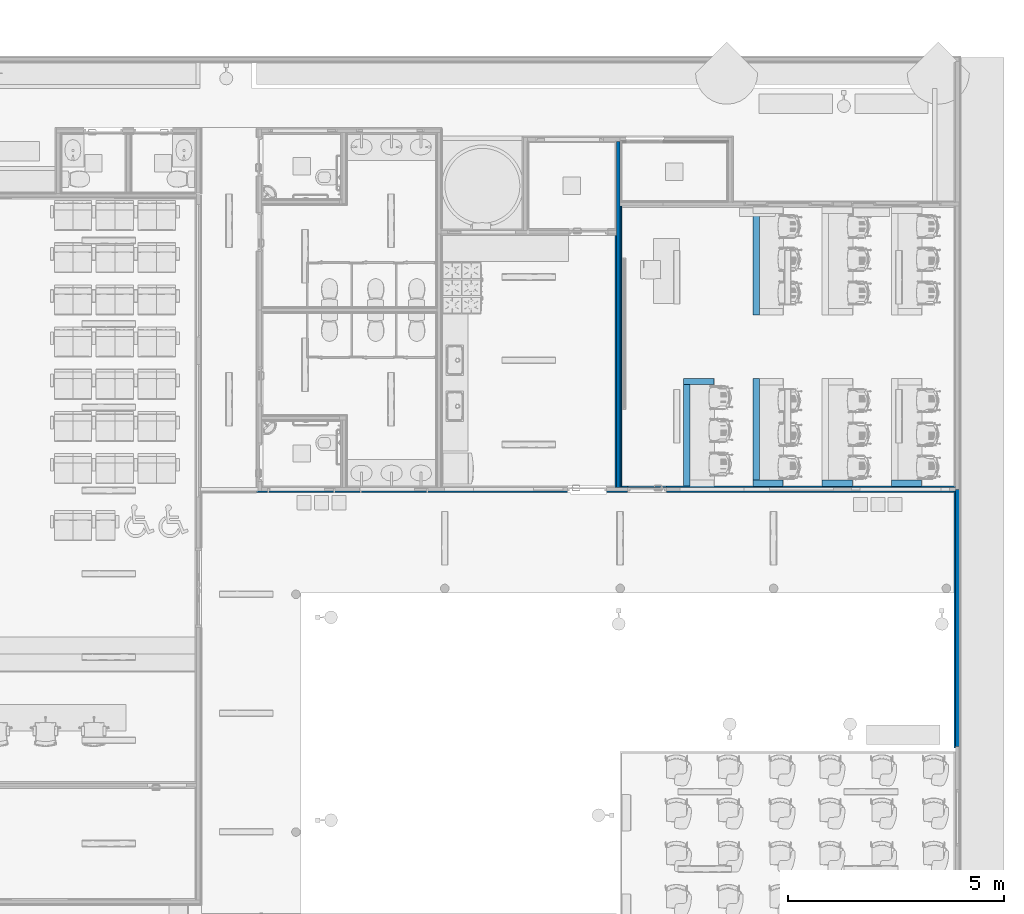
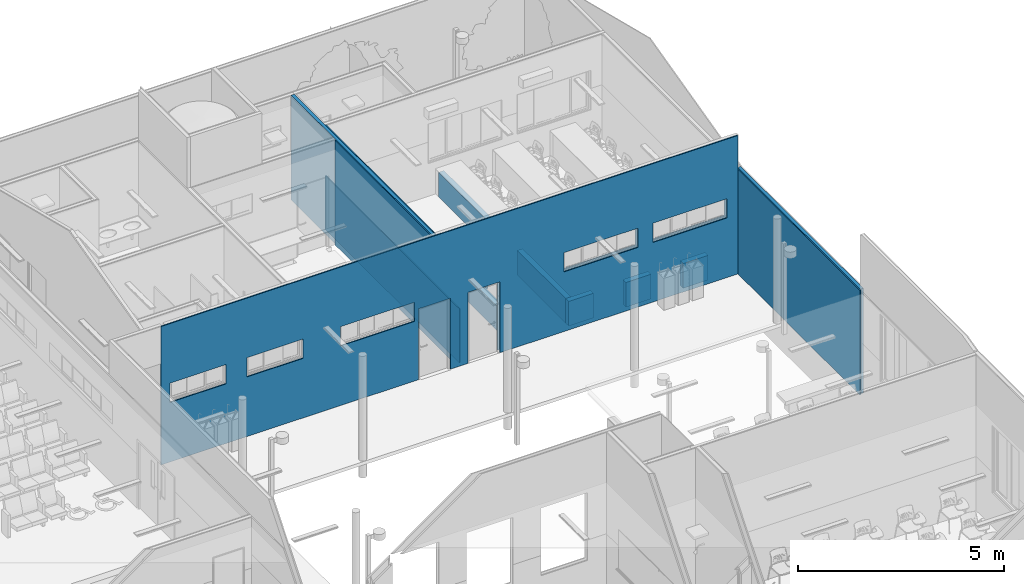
# One storey, part 39 of 155: 16 walls, 24 openings.
"""IFC2X3 building model written with IfcOpenShell, lengths in metres."""

from ifc_helpers import new_model, entity, si_unit, converted_unit, derived_unit, direction, frame, frame_2d, origin, place, context, subcontext, project, spatial, polyline, rectangle, extrude, clip, bounded_halfspace, material, layer, layer_set, layer_usage, type_object, element, save


model = new_model("IFC2X3")

# Units and contexts
model_context = context("Model", 3, precision=1e-05, world=origin(), true_north=direction((6.12303176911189e-17, 1.0)))
body_context = subcontext(model_context, "Body", "Model", "MODEL_VIEW")
ifc_project = project(units=[si_unit("LENGTHUNIT", "METRE"), si_unit("AREAUNIT", "SQUARE_METRE"), si_unit("VOLUMEUNIT", "CUBIC_METRE"), converted_unit("PLANEANGLEUNIT", "DEGREE", entity("IfcRatioMeasure", 0.0174532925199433), si_unit("PLANEANGLEUNIT", "RADIAN"), dimensions=[0, 0, 0, 0, 0, 0, 0]), si_unit("MASSUNIT", "GRAM", prefix="KILO"), derived_unit("MASSDENSITYUNIT", [(si_unit("MASSUNIT", "GRAM", prefix="KILO"), 1), (si_unit("LENGTHUNIT", "METRE"), -3)]), si_unit("TIMEUNIT", "SECOND"), si_unit("FREQUENCYUNIT", "HERTZ"), si_unit("THERMODYNAMICTEMPERATUREUNIT", "DEGREE_CELSIUS"), derived_unit("THERMALTRANSMITTANCEUNIT", [(si_unit("MASSUNIT", "GRAM", prefix="KILO"), 1), (si_unit("THERMODYNAMICTEMPERATUREUNIT", "KELVIN"), -1), (si_unit("TIMEUNIT", "SECOND"), -3)]), derived_unit("VOLUMETRICFLOWRATEUNIT", [(si_unit("LENGTHUNIT", "METRE"), 3), (si_unit("TIMEUNIT", "SECOND"), -1)]), si_unit("ELECTRICCURRENTUNIT", "AMPERE"), si_unit("ELECTRICVOLTAGEUNIT", "VOLT"), si_unit("POWERUNIT", "WATT"), si_unit("FORCEUNIT", "NEWTON", prefix="KILO"), si_unit("ILLUMINANCEUNIT", "LUX"), si_unit("LUMINOUSFLUXUNIT", "LUMEN"), si_unit("LUMINOUSINTENSITYUNIT", "CANDELA"), derived_unit("USERDEFINED", [(si_unit("MASSUNIT", "GRAM", prefix="KILO"), -1), (si_unit("LENGTHUNIT", "METRE"), -2), (si_unit("TIMEUNIT", "SECOND"), 3), (si_unit("LUMINOUSFLUXUNIT", "LUMEN"), 1)]), derived_unit("LINEARVELOCITYUNIT", [(si_unit("LENGTHUNIT", "METRE"), 1), (si_unit("TIMEUNIT", "SECOND"), -1)]), si_unit("PRESSUREUNIT", "PASCAL"), derived_unit("USERDEFINED", [(si_unit("LENGTHUNIT", "METRE"), -2), (si_unit("MASSUNIT", "GRAM", prefix="KILO"), 1), (si_unit("TIMEUNIT", "SECOND"), -2)])], contexts=[model_context])

# Site, building, storey
site_placement = place(None, frame((26.9889013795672, -17.5624287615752, 0.0)))
site = spatial("IfcSite", under=ifc_project, at=site_placement, Name="Default", CompositionType="ELEMENT")
building_placement = place(site_placement, origin())
building = spatial("IfcBuilding", under=site, at=building_placement, Name="C. C. L. Monsenhor Antônio Sampaio", CompositionType="ELEMENT")
storey_placement = place(building_placement, frame((0.0, 0.0, 1.19999999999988)))
storey = spatial("IfcBuildingStorey", under=building, at=storey_placement, Name="Nível 1.2", CompositionType="ELEMENT", Elevation=1.19999999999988)

# Wall
ifc_material_1 = material(Name="ALVENARIA")
ifc_layer_1 = layer(ifc_material_1, 0.09)
ifc_layer_set_1 = layer_set([ifc_layer_1], Name="Parede básica:ENucleo parede 15cm")
ifc_layer_usage_1 = layer_usage(ifc_layer_set_1, "AXIS2", "NEGATIVE", 0.045)
wall_type_1 = type_object("IfcWallType", Name="Parede básica:ENucleo parede 15cm", PredefinedType="STANDARD", material=ifc_layer_set_1)
wall_1_placement = place(storey_placement, frame((3.80461597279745, -8.77306634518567, 0.0), z_axis=(0.0, 0.0, 1.0), x_axis=(0.0, -1.0, 0.0)))
element("IfcWallStandardCase", 1, at=wall_1_placement, inside=storey, type_object=wall_type_1, material=ifc_layer_usage_1, Name="Parede básica:ENucleo parede 15cm", ObjectType="Parede básica:ENucleo parede 15cm", context=body_context, shape_type="Clipping", body=[
    clip(clip(clip(clip(extrude(rectangle(XDim=8.0100000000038, YDim=0.0900000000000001, at=frame_2d((4.0050000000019, -6.93889390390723e-18), x_axis=(-1.0, 0.0))), origin(), (0.0, 0.0, 1.0), 3.10000000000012), bounded_halfspace(frame((1.4100000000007, 0.0448317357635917, 3.10000000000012), z_axis=(0.0, -1.0, 0.0), x_axis=(1.0, 0.0, 0.0)), True, frame((1.4100000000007, 0.0448317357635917, 3.10000000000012), z_axis=(0.0, -1.0, 0.0), x_axis=(1.0, 0.0, 0.0)), polyline([(0.0, 0.0), (-1.4100000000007, 0.0), (-1.4100000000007, -3.10000000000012), (0.0, -3.10000000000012), (0.0, 0.0)]))), bounded_halfspace(frame((1.4100000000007, 0.0448317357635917, 0.0), z_axis=(1.0, 0.0, 0.0), x_axis=(0.0, 1.0, 0.0)), True, frame((1.4100000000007, 0.0448317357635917, 0.0), z_axis=(1.0, 0.0, 0.0), x_axis=(0.0, 1.0, 0.0)), polyline([(0.0, 0.0), (0.000168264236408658, 0.0), (0.000168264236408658, 3.10000000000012), (0.0, 3.10000000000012), (0.0, 0.0)]))), bounded_halfspace(frame((1.5000000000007, 0.0448317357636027, 0.0), z_axis=(0.0, -1.0, 0.0), x_axis=(1.0, 0.0, 0.0)), True, frame((1.5000000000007, 0.0448317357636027, 0.0), z_axis=(0.0, -1.0, 0.0), x_axis=(1.0, 0.0, 0.0)), polyline([(0.0, 0.0), (6.5100000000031, 0.0), (6.5100000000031, 3.10000000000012), (0.0, 3.10000000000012), (0.0, 0.0)]))), bounded_halfspace(frame((1.5000000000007, 0.0448317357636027, 3.10000000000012), z_axis=(-1.0, 0.0, 0.0), x_axis=(0.0, -1.0, 0.0)), True, frame((1.5000000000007, 0.0448317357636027, 3.10000000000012), z_axis=(-1.0, 0.0, 0.0), x_axis=(0.0, -1.0, 0.0)), polyline([(0.0, 0.0), (-0.000168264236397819, 0.0), (-0.000168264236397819, -3.10000000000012), (0.0, -3.10000000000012), (0.0, 0.0)]))),
])

# Wall, openings
ifc_layer_usage_2 = layer_usage(ifc_layer_set_1, "AXIS2", "NEGATIVE", 0.045)
wall_2_placement = place(storey_placement, frame((11.6544477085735, -22.783066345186, 0.0), z_axis=(0.0, 0.0, 1.0), x_axis=(0.0, 1.0, 0.0)))
wall_2 = element("IfcWallStandardCase", 2, at=wall_2_placement, inside=storey, type_object=wall_type_1, material=ifc_layer_usage_2, Name="Parede básica:ENucleo parede 15cm", ObjectType="Parede básica:ENucleo parede 15cm", context=body_context, shape_type="SweptSolid", body=[
    extrude(rectangle(XDim=5.95499999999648, YDim=0.0900000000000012, at=frame_2d((2.97749999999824, 5.27355936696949e-16), x_axis=(-1.0, 0.0))), origin(), (0.0, 0.0, 1.0), 3.10000000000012),
])
opening_1_placement = place(wall_2_placement, origin())
element("IfcOpeningElement", 3, at=opening_1_placement, cuts=wall_2, Name="Parede básica:ENucleo parede 15cm", ObjectType="Opening", context=body_context, shape_type="SweptSolid", body=[
    extrude(rectangle(XDim=2.0, YDim=1.30000000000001, at=frame_2d((0.0, -3.88578058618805e-16), x_axis=(0.0, 1.0))), frame((-4.0, -1.47900000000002, 2.0), z_axis=(0.0, 1.0, 0.0), x_axis=(-1.0, 0.0, 0.0)), (0.0, 0.0, 1.0), 3.048),
])
opening_2_placement = place(wall_2_placement, origin())
element("IfcOpeningElement", 4, at=opening_2_placement, cuts=wall_2, Name="Parede básica:ENucleo parede 15cm", ObjectType="Opening", context=body_context, shape_type="SweptSolid", body=[
    extrude(rectangle(XDim=2.0, YDim=1.30000000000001, at=frame_2d((0.0, -3.88578058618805e-16), x_axis=(0.0, 1.0))), frame((-1.64999999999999, -1.47900000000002, 2.0), z_axis=(0.0, 1.0, 0.0), x_axis=(-1.0, 0.0, 0.0)), (0.0, 0.0, 1.0), 3.048),
])

# Walls
ifc_material_2 = material(Name=".CERÂMICA 10x10 BRANCA")
ifc_layer_2 = layer(ifc_material_2, 0.0035)
ifc_material_3 = material(Name="Argamassa Colante")
ifc_layer_3 = layer(ifc_material_3, 0.02)
ifc_material_4 = material(Name="4")
ifc_layer_4 = layer(ifc_material_4, 0.0015)
ifc_material_5 = material(Name="3")
ifc_layer_5 = layer(ifc_material_5, 0.005)
ifc_layer_set_2 = layer_set([ifc_layer_2, ifc_layer_3, ifc_layer_4, ifc_layer_5], Name="Parede básica:ECeramica branca 10x10cm")
ifc_layer_usage_3 = layer_usage(ifc_layer_set_2, "AXIS2", "POSITIVE", -0.015)
wall_type_2 = type_object("IfcWallType", Name="Parede básica:ECeramica branca 10x10cm", PredefinedType="STANDARD", material=ifc_layer_set_2)
wall_3_placement = place(storey_placement, frame((3.74461597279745, -10.9530663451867, 0.0), z_axis=(0.0, 0.0, 1.0), x_axis=(0.0, -1.0, 0.0)))
element("IfcWallStandardCase", 5, at=wall_3_placement, inside=storey, type_object=wall_type_2, material=ifc_layer_usage_3, Name="Parede básica:ECeramica branca 10x10cm", ObjectType="Parede básica:ECeramica branca 10x10cm", context=body_context, shape_type="SweptSolid", body=[
    extrude(rectangle(XDim=5.83000000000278, YDim=0.0299999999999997, at=frame_2d((2.91500000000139, 0.0), x_axis=(-1.0, 0.0))), origin(), (0.0, 0.0, 1.0), 3.10000000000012),
])
ifc_layer_usage_4 = layer_usage(ifc_layer_set_2, "AXIS2", "NEGATIVE", 0.015)
wall_4_placement = place(storey_placement, frame((3.86461597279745, -10.2730663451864, 0.0), z_axis=(0.0, 0.0, 1.0), x_axis=(0.0, -1.0, 0.0)))
element("IfcWallStandardCase", 6, at=wall_4_placement, inside=storey, type_object=wall_type_2, material=ifc_layer_usage_4, Name="Parede básica:ECeramica branca 10x10cm", ObjectType="Parede básica:ECeramica branca 10x10cm", context=body_context, shape_type="SweptSolid", body=[
    extrude(rectangle(XDim=6.5100000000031, YDim=0.0299999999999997, at=frame_2d((3.25500000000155, 0.0), x_axis=(-1.0, 0.0))), origin(), (0.0, 0.0, 1.0), 1.6),
])

# Wall, openings
ifc_layer_usage_5 = layer_usage(ifc_layer_set_2, "AXIS2", "NEGATIVE", 0.015)
wall_5_placement = place(storey_placement, frame((3.87961597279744, -16.7680663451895, 0.0)))
wall_5 = element("IfcWallStandardCase", 7, at=wall_5_placement, inside=storey, type_object=wall_type_2, material=ifc_layer_usage_5, Name="Parede básica:ECeramica branca 10x10cm", ObjectType="Parede básica:ECeramica branca 10x10cm", context=body_context, shape_type="SweptSolid", body=[
    extrude(rectangle(XDim=7.72983173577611, YDim=0.0300000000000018, at=frame_2d((3.86491586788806, 0.0), x_axis=(-1.0, 0.0))), origin(), (0.0, 0.0, 1.0), 1.6),
])
opening_3_placement = place(wall_5_placement, origin())
element("IfcOpeningElement", 8, at=opening_3_placement, cuts=wall_5, Name="Parede básica:ECeramica branca 10x10cm", ObjectType="Opening", context=body_context, shape_type="SweptSolid", body=[
    extrude(rectangle(XDim=2.09999999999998, YDim=0.9, at=frame_2d((-3.33066907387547e-16, -5.27355936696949e-16), x_axis=(1.0, 0.0))), frame((0.591249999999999, -1.539, 1.04999999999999), z_axis=(0.0, 1.0, 0.0), x_axis=(0.0, 0.0, 1.0)), (0.0, 0.0, 1.0), 3.048),
])
opening_4_placement = place(wall_5_placement, origin())
element("IfcOpeningElement", 9, at=opening_4_placement, cuts=wall_5, Name="Parede básica:ECeramica branca 10x10cm", ObjectType="Opening", context=body_context, shape_type="SweptSolid", body=[
    extrude(rectangle(XDim=0.570000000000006, YDim=2.06999999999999, at=frame_2d((0.0, 2.77555756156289e-16), x_axis=(0.0, 1.0))), frame((6.36, -1.539, 2.05000000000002), z_axis=(0.0, 1.0, 0.0), x_axis=(-1.0, 0.0, 0.0)), (0.0, 0.0, 1.0), 3.048),
])
opening_5_placement = place(wall_5_placement, origin())
element("IfcOpeningElement", 10, at=opening_5_placement, cuts=wall_5, Name="Parede básica:ECeramica branca 10x10cm", ObjectType="Opening", context=body_context, shape_type="SweptSolid", body=[
    extrude(rectangle(XDim=0.570000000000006, YDim=2.07, at=frame_2d((5.55111512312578e-16, 2.77555756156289e-16), x_axis=(0.0, 1.0))), frame((3.87, -1.539, 2.05000000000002), z_axis=(0.0, 1.0, 0.0), x_axis=(-1.0, 0.0, 0.0)), (0.0, 0.0, 1.0), 3.048),
])
opening_6_placement = place(wall_5_placement, origin())
element("IfcOpeningElement", 11, at=opening_6_placement, cuts=wall_5, Name="Parede básica:ECeramica branca 10x10cm", ObjectType="Opening", context=body_context, shape_type="SweptSolid", body=[
    extrude(rectangle(XDim=2.09999999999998, YDim=0.9, at=frame_2d((0.0, 0.0), x_axis=(0.0, 1.0))), frame((-0.798749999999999, -1.539, 1.04999999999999), z_axis=(0.0, 1.0, 0.0), x_axis=(-1.0, 0.0, 0.0)), (0.0, 0.0, 1.0), 3.048),
])
opening_7_placement = place(wall_5_placement, origin())
element("IfcOpeningElement", 12, at=opening_7_placement, cuts=wall_5, Name="Parede básica:ECeramica branca 10x10cm", ObjectType="Opening", context=body_context, shape_type="SweptSolid", body=[
    extrude(rectangle(XDim=0.570000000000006, YDim=2.07, at=frame_2d((0.0, 2.77555756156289e-16), x_axis=(0.0, 1.0))), frame((-2.38875, -1.539, 2.05000000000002), z_axis=(0.0, 1.0, 0.0), x_axis=(-1.0, 0.0, 0.0)), (0.0, 0.0, 1.0), 3.048),
])
opening_8_placement = place(wall_5_placement, origin())
element("IfcOpeningElement", 13, at=opening_8_placement, cuts=wall_5, Name="Parede básica:ECeramica branca 10x10cm", ObjectType="Opening", context=body_context, shape_type="SweptSolid", body=[
    extrude(rectangle(XDim=0.570000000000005, YDim=1.56999999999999, at=frame_2d((5.27355936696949e-16, -2.22044604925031e-16), x_axis=(1.0, 0.0))), frame((-7.41516557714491, -1.539, 2.05000000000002), z_axis=(0.0, 1.0, 0.0), x_axis=(0.0, 0.0, 1.0)), (0.0, 0.0, 1.0), 3.048),
])

# Wall
ifc_material_6 = material(Name="Acabamento Branco")
ifc_layer_6 = layer(ifc_material_6, 0.0035)
ifc_material_7 = material(Name="Massa corrida")
ifc_layer_7 = layer(ifc_material_7, 0.02)
ifc_layer_8 = layer(ifc_material_4, 0.0015)
ifc_layer_9 = layer(ifc_material_5, 0.005)
ifc_layer_set_3 = layer_set([ifc_layer_6, ifc_layer_7, ifc_layer_8, ifc_layer_9], Name="Parede básica:EPintura Branca")
ifc_layer_usage_6 = layer_usage(ifc_layer_set_3, "AXIS2", "NEGATIVE", 0.015)
wall_type_3 = type_object("IfcWallType", Name="Parede básica:EPintura Branca", PredefinedType="STANDARD", material=ifc_layer_set_3)
wall_6_placement = place(storey_placement, frame((3.86461597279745, -10.2730663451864, 1.6), z_axis=(0.0, 0.0, 1.0), x_axis=(0.0, -1.0, 0.0)))
element("IfcWallStandardCase", 14, at=wall_6_placement, inside=storey, type_object=wall_type_3, material=ifc_layer_usage_6, Name="Parede básica:EPintura Branca", ObjectType="Parede básica:EPintura Branca", context=body_context, shape_type="SweptSolid", body=[
    extrude(rectangle(XDim=6.5100000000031, YDim=0.0299999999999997, at=frame_2d((3.25500000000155, 0.0), x_axis=(-1.0, 0.0))), origin(), (0.0, 0.0, 1.0), 1.50000000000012),
])

# Wall, openings
ifc_layer_usage_7 = layer_usage(ifc_layer_set_3, "AXIS2", "NEGATIVE", 0.015)
wall_7_placement = place(storey_placement, frame((3.87961597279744, -16.7680663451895, 1.6)))
wall_7 = element("IfcWallStandardCase", 15, at=wall_7_placement, inside=storey, type_object=wall_type_3, material=ifc_layer_usage_7, Name="Parede básica:EPintura Branca", ObjectType="Parede básica:EPintura Branca", context=body_context, shape_type="SweptSolid", body=[
    extrude(rectangle(XDim=7.72983173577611, YDim=0.0300000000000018, at=frame_2d((3.86491586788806, 0.0), x_axis=(-1.0, 0.0))), origin(), (0.0, 0.0, 1.0), 1.50000000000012),
])
opening_9_placement = place(wall_7_placement, origin())
element("IfcOpeningElement", 16, at=opening_9_placement, cuts=wall_7, Name="Parede básica:EPintura Branca", ObjectType="Opening", context=body_context, shape_type="SweptSolid", body=[
    extrude(rectangle(XDim=2.09999999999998, YDim=0.9, at=frame_2d((-3.33066907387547e-16, -5.27355936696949e-16), x_axis=(1.0, 0.0))), frame((0.591249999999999, -1.539, -0.550000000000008), z_axis=(0.0, 1.0, 0.0), x_axis=(0.0, 0.0, 1.0)), (0.0, 0.0, 1.0), 3.048),
])
opening_10_placement = place(wall_7_placement, origin())
element("IfcOpeningElement", 17, at=opening_10_placement, cuts=wall_7, Name="Parede básica:EPintura Branca", ObjectType="Opening", context=body_context, shape_type="SweptSolid", body=[
    extrude(rectangle(XDim=0.570000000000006, YDim=2.06999999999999, at=frame_2d((0.0, 2.77555756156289e-16), x_axis=(0.0, 1.0))), frame((6.36, -1.539, 0.450000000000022), z_axis=(0.0, 1.0, 0.0), x_axis=(-1.0, 0.0, 0.0)), (0.0, 0.0, 1.0), 3.048),
])
opening_11_placement = place(wall_7_placement, origin())
element("IfcOpeningElement", 18, at=opening_11_placement, cuts=wall_7, Name="Parede básica:EPintura Branca", ObjectType="Opening", context=body_context, shape_type="SweptSolid", body=[
    extrude(rectangle(XDim=2.09999999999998, YDim=0.9, at=frame_2d((0.0, 0.0), x_axis=(0.0, 1.0))), frame((-0.798749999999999, -1.539, -0.550000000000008), z_axis=(0.0, 1.0, 0.0), x_axis=(-1.0, 0.0, 0.0)), (0.0, 0.0, 1.0), 3.048),
])
opening_12_placement = place(wall_7_placement, origin())
element("IfcOpeningElement", 19, at=opening_12_placement, cuts=wall_7, Name="Parede básica:EPintura Branca", ObjectType="Opening", context=body_context, shape_type="SweptSolid", body=[
    extrude(rectangle(XDim=0.570000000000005, YDim=1.56999999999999, at=frame_2d((5.27355936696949e-16, -2.22044604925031e-16), x_axis=(1.0, 0.0))), frame((-7.41516557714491, -1.539, 0.450000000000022), z_axis=(0.0, 1.0, 0.0), x_axis=(0.0, 0.0, 1.0)), (0.0, 0.0, 1.0), 3.048),
])
opening_13_placement = place(wall_7_placement, origin())
element("IfcOpeningElement", 20, at=opening_13_placement, cuts=wall_7, Name="Parede básica:EPintura Branca", ObjectType="Opening", context=body_context, shape_type="SweptSolid", body=[
    extrude(rectangle(XDim=0.570000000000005, YDim=1.56999999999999, at=frame_2d((5.27355936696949e-16, 0.0), x_axis=(1.0, 0.0))), frame((-5.26516289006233, -1.539, 0.450000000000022), z_axis=(0.0, 1.0, 0.0), x_axis=(0.0, 0.0, 1.0)), (0.0, 0.0, 1.0), 3.048),
])
opening_14_placement = place(wall_7_placement, origin())
element("IfcOpeningElement", 21, at=opening_14_placement, cuts=wall_7, Name="Parede básica:EPintura Branca", ObjectType="Opening", context=body_context, shape_type="SweptSolid", body=[
    extrude(rectangle(XDim=0.570000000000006, YDim=2.07, at=frame_2d((0.0, 2.77555756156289e-16), x_axis=(0.0, 1.0))), frame((-2.38875, -1.539, 0.450000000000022), z_axis=(0.0, 1.0, 0.0), x_axis=(-1.0, 0.0, 0.0)), (0.0, 0.0, 1.0), 3.048),
])
opening_15_placement = place(wall_7_placement, origin())
element("IfcOpeningElement", 22, at=opening_15_placement, cuts=wall_7, Name="Parede básica:EPintura Branca", ObjectType="Opening", context=body_context, shape_type="SweptSolid", body=[
    extrude(rectangle(XDim=0.570000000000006, YDim=2.07, at=frame_2d((5.55111512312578e-16, 2.77555756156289e-16), x_axis=(0.0, 1.0))), frame((3.87, -1.539, 0.450000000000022), z_axis=(0.0, 1.0, 0.0), x_axis=(-1.0, 0.0, 0.0)), (0.0, 0.0, 1.0), 3.048),
])

ifc_material_8 = material(Name="Acabamento amarelo")
ifc_layer_10 = layer(ifc_material_8, 0.0035)
ifc_layer_11 = layer(ifc_material_7, 0.02)
ifc_layer_12 = layer(ifc_material_4, 0.0015)
ifc_layer_13 = layer(ifc_material_5, 0.005)
ifc_layer_set_4 = layer_set([ifc_layer_10, ifc_layer_11, ifc_layer_12, ifc_layer_13], Name="Parede básica:EPintura amarela")
ifc_layer_usage_8 = layer_usage(ifc_layer_set_4, "AXIS2", "NEGATIVE", 0.015)
wall_type_4 = type_object("IfcWallType", Name="Parede básica:EPintura amarela", PredefinedType="STANDARD", material=ifc_layer_set_4)
wall_8_placement = place(storey_placement, frame((11.5794477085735, -16.8880663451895, 0.0), z_axis=(0.0, 0.0, 1.0), x_axis=(-1.0, 0.0, 0.0)))
wall_8 = element("IfcWallStandardCase", 23, at=wall_8_placement, inside=storey, type_object=wall_type_4, material=ifc_layer_usage_8, Name="Parede básica:EPintura amarela", ObjectType="Parede básica:EPintura amarela", context=body_context, shape_type="SweptSolid", body=[
    extrude(rectangle(XDim=16.1499999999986, YDim=0.0300000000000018, at=frame_2d((8.07499999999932, 4.85722573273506e-17), x_axis=(-1.0, 0.0))), origin(), (0.0, 0.0, 1.0), 4.10000000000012),
])
opening_16_placement = place(wall_8_placement, origin())
element("IfcOpeningElement", 24, at=opening_16_placement, cuts=wall_8, Name="Parede básica:EPintura amarela", ObjectType="Opening", context=body_context, shape_type="SweptSolid", body=[
    extrude(rectangle(XDim=2.09999999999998, YDim=0.9, at=frame_2d((-3.33066907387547e-16, 0.0), x_axis=(1.0, 0.0))), frame((8.4985817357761, -1.629, 1.04999999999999), z_axis=(0.0, 1.0, 0.0), x_axis=(0.0, 0.0, 1.0)), (0.0, 0.0, 1.0), 3.048),
])
opening_17_placement = place(wall_8_placement, origin())
element("IfcOpeningElement", 25, at=opening_17_placement, cuts=wall_8, Name="Parede básica:EPintura amarela", ObjectType="Opening", context=body_context, shape_type="SweptSolid", body=[
    extrude(rectangle(XDim=2.09999999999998, YDim=0.9, at=frame_2d((-5.27355936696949e-16, 0.0), x_axis=(0.0, 1.0))), frame((7.1085817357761, -1.629, 1.04999999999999), z_axis=(0.0, 1.0, 0.0), x_axis=(-1.0, 0.0, 0.0)), (0.0, 0.0, 1.0), 3.048),
])
opening_18_placement = place(wall_8_placement, origin())
element("IfcOpeningElement", 26, at=opening_18_placement, cuts=wall_8, Name="Parede básica:EPintura amarela", ObjectType="Opening", context=body_context, shape_type="SweptSolid", body=[
    extrude(rectangle(XDim=0.570000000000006, YDim=1.56999999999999, at=frame_2d((0.0, 2.77555756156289e-16), x_axis=(0.0, 1.0))), frame((15.114997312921, -1.629, 2.05000000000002), z_axis=(0.0, 1.0, 0.0), x_axis=(-1.0, 0.0, 0.0)), (0.0, 0.0, 1.0), 3.048),
])
opening_19_placement = place(wall_8_placement, origin())
element("IfcOpeningElement", 27, at=opening_19_placement, cuts=wall_8, Name="Parede básica:EPintura amarela", ObjectType="Opening", context=body_context, shape_type="SweptSolid", body=[
    extrude(rectangle(XDim=0.570000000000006, YDim=1.56999999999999, at=frame_2d((-1.11022302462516e-16, 2.77555756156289e-16), x_axis=(0.0, 1.0))), frame((12.9649946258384, -1.62899999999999, 2.05000000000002), z_axis=(0.0, 1.0, 0.0), x_axis=(-1.0, 0.0, 0.0)), (0.0, 0.0, 1.0), 3.048),
])
opening_20_placement = place(wall_8_placement, origin())
element("IfcOpeningElement", 28, at=opening_20_placement, cuts=wall_8, Name="Parede básica:EPintura amarela", ObjectType="Opening", context=body_context, shape_type="SweptSolid", body=[
    extrude(rectangle(XDim=0.570000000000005, YDim=2.07, at=frame_2d((5.27355936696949e-16, -1.11022302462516e-16), x_axis=(1.0, 0.0))), frame((10.0885817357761, -1.629, 2.05000000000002), z_axis=(0.0, 1.0, 0.0), x_axis=(0.0, 0.0, 1.0)), (0.0, 0.0, 1.0), 3.048),
])
opening_21_placement = place(wall_8_placement, origin())
element("IfcOpeningElement", 29, at=opening_21_placement, cuts=wall_8, Name="Parede básica:EPintura amarela", ObjectType="Opening", context=body_context, shape_type="SweptSolid", body=[
    extrude(rectangle(XDim=0.570000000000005, YDim=2.07, at=frame_2d((5.27355936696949e-16, -5.55111512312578e-16), x_axis=(1.0, 0.0))), frame((1.3398317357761, -1.62899999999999, 2.05000000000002), z_axis=(0.0, 1.0, 0.0), x_axis=(0.0, 0.0, 1.0)), (0.0, 0.0, 1.0), 3.048),
])
opening_22_placement = place(wall_8_placement, origin())
element("IfcOpeningElement", 30, at=opening_22_placement, cuts=wall_8, Name="Parede básica:EPintura amarela", ObjectType="Opening", context=body_context, shape_type="SweptSolid", body=[
    extrude(rectangle(XDim=0.570000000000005, YDim=2.07, at=frame_2d((5.27355936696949e-16, -5.55111512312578e-16), x_axis=(1.0, 0.0))), frame((3.82983173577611, -1.629, 2.05000000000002), z_axis=(0.0, 1.0, 0.0), x_axis=(0.0, 0.0, 1.0)), (0.0, 0.0, 1.0), 3.048),
])

ifc_layer_usage_9 = layer_usage(ifc_layer_set_4, "AXIS2", "NEGATIVE", 0.015)
wall_9_placement = place(storey_placement, frame((11.5944477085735, -22.813066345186, 0.0), z_axis=(0.0, 0.0, 1.0), x_axis=(0.0, 1.0, 0.0)))
wall_9 = element("IfcWallStandardCase", 31, at=wall_9_placement, inside=storey, type_object=wall_type_4, material=ifc_layer_usage_9, Name="Parede básica:EPintura amarela", ObjectType="Parede básica:EPintura amarela", context=body_context, shape_type="SweptSolid", body=[
    extrude(rectangle(XDim=5.93999999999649, YDim=0.0300000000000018, at=frame_2d((2.96999999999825, -3.50414142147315e-16), x_axis=(-1.0, 0.0))), origin(), (0.0, 0.0, 1.0), 3.10000000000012),
])
opening_23_placement = place(wall_9_placement, origin())
element("IfcOpeningElement", 32, at=opening_23_placement, cuts=wall_9, Name="Parede básica:EPintura amarela", ObjectType="Opening", context=body_context, shape_type="SweptSolid", body=[
    extrude(rectangle(XDim=2.0, YDim=1.30000000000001, at=frame_2d((0.0, -3.88578058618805e-16), x_axis=(0.0, 1.0))), frame((-3.96999999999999, -1.53900000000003, 2.0), z_axis=(0.0, 1.0, 0.0), x_axis=(-1.0, 0.0, 0.0)), (0.0, 0.0, 1.0), 3.048),
])
opening_24_placement = place(wall_9_placement, origin())
element("IfcOpeningElement", 33, at=opening_24_placement, cuts=wall_9, Name="Parede básica:EPintura amarela", ObjectType="Opening", context=body_context, shape_type="SweptSolid", body=[
    extrude(rectangle(XDim=2.0, YDim=1.30000000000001, at=frame_2d((0.0, -3.88578058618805e-16), x_axis=(0.0, 1.0))), frame((-1.62, -1.53900000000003, 2.0), z_axis=(0.0, 1.0, 0.0), x_axis=(-1.0, 0.0, 0.0)), (0.0, 0.0, 1.0), 3.048),
])

# Walls
ifc_layer_14 = layer(ifc_material_2, 0.005)
ifc_material_9 = material(Name="Argamassa Cola")
ifc_layer_15 = layer(ifc_material_9, 0.0175)
ifc_material_10 = material(Name="Tijolo, comum, marrom")
ifc_layer_16 = layer(ifc_material_10, 0.105)
ifc_layer_17 = layer(ifc_material_9, 0.0175)
ifc_layer_18 = layer(ifc_material_2, 0.005)
ifc_layer_set_5 = layer_set([ifc_layer_14, ifc_layer_15, ifc_layer_16, ifc_layer_17, ifc_layer_18], Name="Parede básica:INTERNA .15 - REVESTIMENTO BRANCO")
ifc_layer_usage_10 = layer_usage(ifc_layer_set_5, "AXIS2", "POSITIVE", -0.075)
wall_type_5 = type_object("IfcWallType", Name="Parede básica:INTERNA .15 - REVESTIMENTO BRANCO", PredefinedType="STANDARD", material=ifc_layer_set_5)
wall_10_placement = place(storey_placement, frame((6.99694770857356, -10.4480663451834, 0.0), z_axis=(0.0, 0.0, 1.0), x_axis=(0.0, -1.0, 0.0)))
element("IfcWallStandardCase", 34, at=wall_10_placement, inside=storey, type_object=wall_type_5, material=ifc_layer_usage_10, Name="Parede básica:INTERNA .15 - REVESTIMENTO BRANCO", ObjectType="Parede básica:INTERNA .15 - REVESTIMENTO BRANCO", context=body_context, shape_type="SweptSolid", body=[
    extrude(rectangle(XDim=2.35, YDim=0.150000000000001, at=frame_2d((1.175, 0.0), x_axis=(-1.0, 0.0))), origin(), (0.0, 0.0, 1.0), 0.73),
])
ifc_layer_usage_11 = layer_usage(ifc_layer_set_5, "AXIS2", "POSITIVE", -0.075)
wall_11_placement = place(storey_placement, frame((6.01944770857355, -14.3330663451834, 0.0), z_axis=(0.0, 0.0, 1.0), x_axis=(-1.0, 0.0, 0.0)))
element("IfcWallStandardCase", 35, at=wall_11_placement, inside=storey, type_object=wall_type_5, material=ifc_layer_usage_11, Name="Parede básica:INTERNA .15 - REVESTIMENTO BRANCO", ObjectType="Parede básica:INTERNA .15 - REVESTIMENTO BRANCO", context=body_context, shape_type="SweptSolid", body=[
    extrude(rectangle(XDim=0.699999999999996, YDim=0.150000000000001, at=frame_2d((0.349999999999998, 1.38777878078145e-16), x_axis=(-1.0, 0.0))), origin(), (0.0, 0.0, 1.0), 0.73),
])
ifc_layer_usage_12 = layer_usage(ifc_layer_set_5, "AXIS2", "POSITIVE", -0.075)
wall_12_placement = place(storey_placement, frame((5.39444770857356, -14.4080663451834, 0.0), z_axis=(0.0, 0.0, 1.0), x_axis=(0.0, -1.0, 0.0)))
element("IfcWallStandardCase", 36, at=wall_12_placement, inside=storey, type_object=wall_type_5, material=ifc_layer_usage_12, Name="Parede básica:INTERNA .15 - REVESTIMENTO BRANCO", ObjectType="Parede básica:INTERNA .15 - REVESTIMENTO BRANCO", context=body_context, shape_type="SweptSolid", body=[
    extrude(rectangle(XDim=2.35000000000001, YDim=0.150000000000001, at=frame_2d((1.175, 0.0), x_axis=(-1.0, 0.0))), origin(), (0.0, 0.0, 1.0), 0.73),
])
ifc_layer_usage_13 = layer_usage(ifc_layer_set_5, "AXIS2", "NEGATIVE", 0.075)
wall_13_placement = place(storey_placement, frame((10.8269477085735, -16.6880663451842, 0.0), z_axis=(0.0, 0.0, 1.0), x_axis=(-1.0, 0.0, 0.0)))
element("IfcWallStandardCase", 37, at=wall_13_placement, inside=storey, type_object=wall_type_5, material=ifc_layer_usage_13, Name="Parede básica:INTERNA .15 - REVESTIMENTO BRANCO", ObjectType="Parede básica:INTERNA .15 - REVESTIMENTO BRANCO", context=body_context, shape_type="SweptSolid", body=[
    extrude(rectangle(XDim=0.699999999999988, YDim=0.150000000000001, at=frame_2d((0.349999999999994, -5.55111512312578e-17), x_axis=(-1.0, 0.0))), origin(), (0.0, 0.0, 1.0), 0.73),
])
ifc_layer_usage_14 = layer_usage(ifc_layer_set_5, "AXIS2", "NEGATIVE", 0.075)
wall_14_placement = place(storey_placement, frame((9.22444770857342, -16.6880663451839, 0.0), z_axis=(0.0, 0.0, 1.0), x_axis=(-1.0, 0.0, 0.0)))
element("IfcWallStandardCase", 38, at=wall_14_placement, inside=storey, type_object=wall_type_5, material=ifc_layer_usage_14, Name="Parede básica:INTERNA .15 - REVESTIMENTO BRANCO", ObjectType="Parede básica:INTERNA .15 - REVESTIMENTO BRANCO", context=body_context, shape_type="SweptSolid", body=[
    extrude(rectangle(XDim=0.699999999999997, YDim=0.150000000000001, at=frame_2d((0.349999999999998, -1.73472347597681e-16), x_axis=(-1.0, 0.0))), origin(), (0.0, 0.0, 1.0), 0.73),
])
ifc_layer_usage_15 = layer_usage(ifc_layer_set_5, "AXIS2", "NEGATIVE", 0.075)
wall_15_placement = place(storey_placement, frame((7.62194770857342, -16.6880663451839, 0.0), z_axis=(0.0, 0.0, 1.0), x_axis=(-1.0, 0.0, 0.0)))
element("IfcWallStandardCase", 39, at=wall_15_placement, inside=storey, type_object=wall_type_5, material=ifc_layer_usage_15, Name="Parede básica:INTERNA .15 - REVESTIMENTO BRANCO", ObjectType="Parede básica:INTERNA .15 - REVESTIMENTO BRANCO", context=body_context, shape_type="SweptSolid", body=[
    extrude(rectangle(XDim=0.699999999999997, YDim=0.150000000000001, at=frame_2d((0.349999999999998, -1.73472347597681e-16), x_axis=(-1.0, 0.0))), origin(), (0.0, 0.0, 1.0), 0.73),
])
ifc_layer_usage_16 = layer_usage(ifc_layer_set_5, "AXIS2", "NEGATIVE", 0.075)
wall_16_placement = place(storey_placement, frame((6.99694770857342, -16.6130663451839, 0.0), z_axis=(0.0, 0.0, 1.0), x_axis=(0.0, 1.0, 0.0)))
element("IfcWallStandardCase", 40, at=wall_16_placement, inside=storey, type_object=wall_type_5, material=ifc_layer_usage_16, Name="Parede básica:INTERNA .15 - REVESTIMENTO BRANCO", ObjectType="Parede básica:INTERNA .15 - REVESTIMENTO BRANCO", context=body_context, shape_type="SweptSolid", body=[
    extrude(rectangle(XDim=2.34999999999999, YDim=0.150000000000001, at=frame_2d((1.175, -1.31838984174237e-16), x_axis=(-1.0, 0.0))), origin(), (0.0, 0.0, 1.0), 0.73),
])

save(model, "model.ifc")
